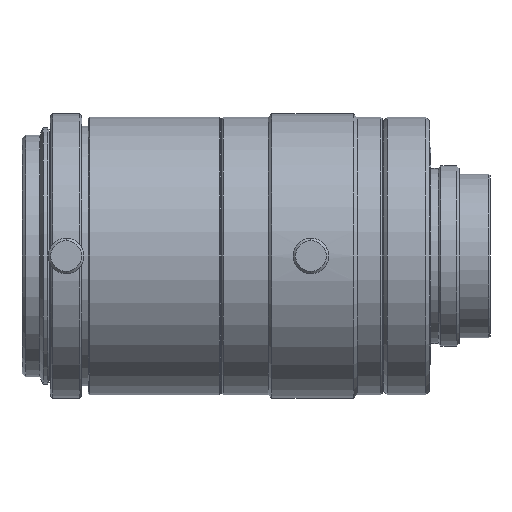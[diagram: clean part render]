
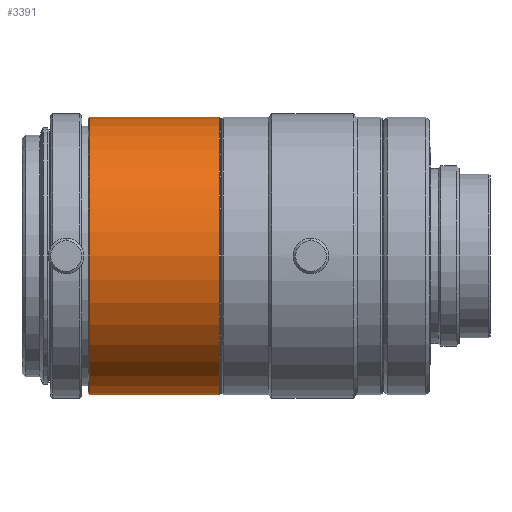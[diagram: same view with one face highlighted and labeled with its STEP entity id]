
A CAD part, front view. The second image highlights one B-rep face of the part: STEP entity #3391.
In plain terms, the highlighted cylindrical face has radius 19.5 mm (diameter 39 mm), a partial arc.
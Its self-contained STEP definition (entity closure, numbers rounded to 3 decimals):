
#138 = VERTEX_POINT ( 'NONE', #187 ) ;
#187 = CARTESIAN_POINT ( 'NONE',  ( -65.496, 0., 19.5 ) ) ;
#329 = ORIENTED_EDGE ( 'NONE', *, *, #3359, .F. ) ;
#565 = CARTESIAN_POINT ( 'NONE',  ( -47.296, 0., 0. ) ) ;
#587 = AXIS2_PLACEMENT_3D ( 'NONE', #2734, #3284, #1378 ) ;
#589 = CIRCLE ( 'NONE', #1208, 19.5 ) ;
#681 = LINE ( 'NONE', #1437, #2849 ) ;
#692 = VERTEX_POINT ( 'NONE', #2410 ) ;
#1077 = VERTEX_POINT ( 'NONE', #1783 ) ;
#1195 = CARTESIAN_POINT ( 'NONE',  ( -65.496, 0., 0. ) ) ;
#1208 = AXIS2_PLACEMENT_3D ( 'NONE', #1195, #2252, #3362 ) ;
#1361 = EDGE_CURVE ( 'NONE', #1077, #138, #681, .T. ) ;
#1378 = DIRECTION ( 'NONE',  ( 0., 0., 1. ) ) ;
#1379 = VERTEX_POINT ( 'NONE', #1990 ) ;
#1403 = DIRECTION ( 'NONE',  ( 0., 0., 1. ) ) ;
#1420 = EDGE_CURVE ( 'NONE', #1379, #138, #589, .T. ) ;
#1434 = CIRCLE ( 'NONE', #3273, 19.5 ) ;
#1437 = CARTESIAN_POINT ( 'NONE',  ( -88.99, 0., 19.5 ) ) ;
#1570 = DIRECTION ( 'NONE',  ( -1., 0., 0. ) ) ;
#1783 = CARTESIAN_POINT ( 'NONE',  ( -47.296, 0., 19.5 ) ) ;
#1921 = EDGE_LOOP ( 'NONE', ( #329, #3302, #3423, #3417 ) ) ;
#1990 = CARTESIAN_POINT ( 'NONE',  ( -65.496, 0., -19.5 ) ) ;
#2111 = CYLINDRICAL_SURFACE ( 'NONE', #587, 19.5 ) ;
#2151 = FACE_OUTER_BOUND ( 'NONE', #1921, .T. ) ;
#2164 = EDGE_CURVE ( 'NONE', #692, #1077, #1434, .T. ) ;
#2252 = DIRECTION ( 'NONE',  ( -1., 0., 0. ) ) ;
#2410 = CARTESIAN_POINT ( 'NONE',  ( -47.296, 0., -19.5 ) ) ;
#2561 = DIRECTION ( 'NONE',  ( -1., 0., 0. ) ) ;
#2683 = CARTESIAN_POINT ( 'NONE',  ( -88.99, 0., -19.5 ) ) ;
#2715 = LINE ( 'NONE', #2683, #3260 ) ;
#2734 = CARTESIAN_POINT ( 'NONE',  ( -88.99, 0., 0. ) ) ;
#2767 = DIRECTION ( 'NONE',  ( -1., 0., 0. ) ) ;
#2849 = VECTOR ( 'NONE', #2561, 1000. ) ;
#3260 = VECTOR ( 'NONE', #1570, 1000. ) ;
#3273 = AXIS2_PLACEMENT_3D ( 'NONE', #565, #2767, #1403 ) ;
#3284 = DIRECTION ( 'NONE',  ( -1., 0., 0. ) ) ;
#3302 = ORIENTED_EDGE ( 'NONE', *, *, #2164, .T. ) ;
#3359 = EDGE_CURVE ( 'NONE', #692, #1379, #2715, .T. ) ;
#3362 = DIRECTION ( 'NONE',  ( 0., 0., 1. ) ) ;
#3391 = ADVANCED_FACE ( 'NONE', ( #2151 ), #2111, .T. ) ;
#3417 = ORIENTED_EDGE ( 'NONE', *, *, #1420, .F. ) ;
#3423 = ORIENTED_EDGE ( 'NONE', *, *, #1361, .T. ) ;
